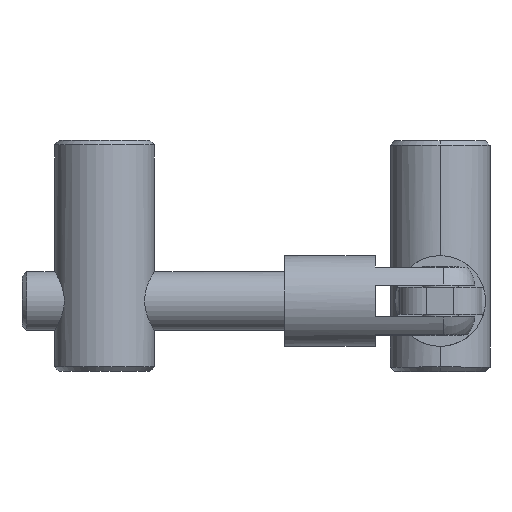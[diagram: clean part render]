
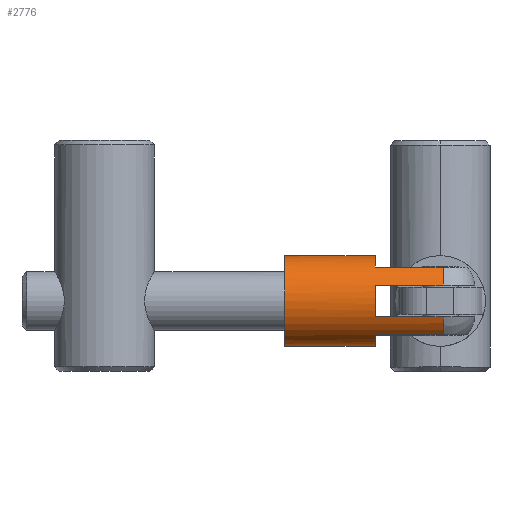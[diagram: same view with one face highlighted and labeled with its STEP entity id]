
A CAD part, top view. The second image highlights one B-rep face of the part: STEP entity #2776.
In plain terms, the highlighted cylindrical face has radius 5 mm (diameter 10 mm), a partial arc.
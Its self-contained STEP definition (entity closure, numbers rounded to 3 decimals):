
#13 = EDGE_CURVE ( 'NONE', #1113, #1048, #3771, .T. ) ;
#226 = CARTESIAN_POINT ( 'NONE',  ( -10.274, -2.469, 39. ) ) ;
#243 = CARTESIAN_POINT ( 'NONE',  ( -6.538, -5.792, 50. ) ) ;
#298 = VECTOR ( 'NONE', #2932, 1000. ) ;
#367 = CARTESIAN_POINT ( 'NONE',  ( -15.274, -2.469, 39. ) ) ;
#370 = CARTESIAN_POINT ( 'NONE',  ( -8.538, -7.158, 46.5 ) ) ;
#371 = VERTEX_POINT ( 'NONE', #2464 ) ;
#456 = CARTESIAN_POINT ( 'NONE',  ( -10.274, -2.469, 39. ) ) ;
#544 = LINE ( 'NONE', #3276, #3618 ) ;
#594 = CYLINDRICAL_SURFACE ( 'NONE', #2261, 5. ) ;
#636 = CARTESIAN_POINT ( 'NONE',  ( -14.038, -5.761, 39. ) ) ;
#639 = DIRECTION ( 'NONE',  ( 0., 0., 1. ) ) ;
#640 = EDGE_CURVE ( 'NONE', #2269, #1048, #1494, .T. ) ;
#655 = EDGE_LOOP ( 'NONE', ( #2705, #1090, #2313, #2256, #1171, #1684, #2192, #3718, #3073, #1452, #3849, #841 ) ) ;
#692 = VERTEX_POINT ( 'NONE', #3238 ) ;
#710 = CIRCLE ( 'NONE', #1411, 5. ) ;
#761 = CARTESIAN_POINT ( 'NONE',  ( -12.038, -7.148, 39. ) ) ;
#769 = CARTESIAN_POINT ( 'NONE',  ( -8.538, -7.158, 50. ) ) ;
#776 = EDGE_CURVE ( 'NONE', #3315, #2993, #1115, .T. ) ;
#782 = VECTOR ( 'NONE', #2841, 1000. ) ;
#819 = CIRCLE ( 'NONE', #2415, 5. ) ;
#832 = DIRECTION ( 'NONE',  ( 0., 0., -1. ) ) ;
#841 = ORIENTED_EDGE ( 'NONE', *, *, #1998, .T. ) ;
#877 = CARTESIAN_POINT ( 'NONE',  ( -15.274, -2.469, 39. ) ) ;
#887 = EDGE_CURVE ( 'NONE', #1274, #3315, #3283, .T. ) ;
#928 = CARTESIAN_POINT ( 'NONE',  ( -10.274, -2.469, 39. ) ) ;
#963 = EDGE_CURVE ( 'NONE', #2150, #2993, #819, .T. ) ;
#1020 = AXIS2_PLACEMENT_3D ( 'NONE', #2440, #639, #2728 ) ;
#1022 = DIRECTION ( 'NONE',  ( 0., 0., -1. ) ) ;
#1048 = VERTEX_POINT ( 'NONE', #2167 ) ;
#1065 = EDGE_CURVE ( 'NONE', #2150, #371, #3104, .T. ) ;
#1090 = ORIENTED_EDGE ( 'NONE', *, *, #3571, .F. ) ;
#1113 = VERTEX_POINT ( 'NONE', #761 ) ;
#1115 = LINE ( 'NONE', #2639, #298 ) ;
#1133 = CARTESIAN_POINT ( 'NONE',  ( -5.274, -2.469, 39. ) ) ;
#1169 = DIRECTION ( 'NONE',  ( 0., 0., -1. ) ) ;
#1171 = ORIENTED_EDGE ( 'NONE', *, *, #640, .T. ) ;
#1235 = DIRECTION ( 'NONE',  ( 1., 0., 0. ) ) ;
#1274 = VERTEX_POINT ( 'NONE', #3188 ) ;
#1299 = DIRECTION ( 'NONE',  ( 0., 0., -1. ) ) ;
#1339 = EDGE_CURVE ( 'NONE', #1541, #692, #1484, .T. ) ;
#1411 = AXIS2_PLACEMENT_3D ( 'NONE', #3287, #1530, #3578 ) ;
#1452 = ORIENTED_EDGE ( 'NONE', *, *, #963, .F. ) ;
#1484 = LINE ( 'NONE', #243, #3049 ) ;
#1494 = LINE ( 'NONE', #769, #782 ) ;
#1518 = DIRECTION ( 'NONE',  ( 0., 0., -1. ) ) ;
#1530 = DIRECTION ( 'NONE',  ( 0., 0., 1. ) ) ;
#1541 = VERTEX_POINT ( 'NONE', #3765 ) ;
#1684 = ORIENTED_EDGE ( 'NONE', *, *, #13, .F. ) ;
#1712 = CARTESIAN_POINT ( 'NONE',  ( -5.274, -2.469, 29. ) ) ;
#1735 = DIRECTION ( 'NONE',  ( 0., 0., -1. ) ) ;
#1809 = DIRECTION ( 'NONE',  ( 0., 0., -1. ) ) ;
#1823 = AXIS2_PLACEMENT_3D ( 'NONE', #3562, #1809, #2106 ) ;
#1960 = DIRECTION ( 'NONE',  ( 0., 0., 1. ) ) ;
#1998 = EDGE_CURVE ( 'NONE', #371, #3860, #3677, .T. ) ;
#2025 = DIRECTION ( 'NONE',  ( -1., 0., 0. ) ) ;
#2032 = VERTEX_POINT ( 'NONE', #3326 ) ;
#2106 = DIRECTION ( 'NONE',  ( -1., 0., 0. ) ) ;
#2150 = VERTEX_POINT ( 'NONE', #877 ) ;
#2167 = CARTESIAN_POINT ( 'NONE',  ( -8.538, -7.158, 39. ) ) ;
#2192 = ORIENTED_EDGE ( 'NONE', *, *, #2454, .F. ) ;
#2256 = ORIENTED_EDGE ( 'NONE', *, *, #3113, .T. ) ;
#2261 = AXIS2_PLACEMENT_3D ( 'NONE', #226, #832, #2025 ) ;
#2269 = VERTEX_POINT ( 'NONE', #370 ) ;
#2281 = FACE_OUTER_BOUND ( 'NONE', #655, .T. ) ;
#2313 = ORIENTED_EDGE ( 'NONE', *, *, #1339, .F. ) ;
#2385 = VECTOR ( 'NONE', #1169, 1000. ) ;
#2415 = AXIS2_PLACEMENT_3D ( 'NONE', #928, #2994, #1235 ) ;
#2440 = CARTESIAN_POINT ( 'NONE',  ( -10.274, -2.469, 29. ) ) ;
#2454 = EDGE_CURVE ( 'NONE', #1274, #1113, #544, .T. ) ;
#2464 = CARTESIAN_POINT ( 'NONE',  ( -15.274, -2.469, 29. ) ) ;
#2486 = AXIS2_PLACEMENT_3D ( 'NONE', #456, #1960, #3133 ) ;
#2546 = CARTESIAN_POINT ( 'NONE',  ( -14.038, -5.761, 46.5 ) ) ;
#2639 = CARTESIAN_POINT ( 'NONE',  ( -14.038, -5.761, 50. ) ) ;
#2705 = ORIENTED_EDGE ( 'NONE', *, *, #3481, .F. ) ;
#2728 = DIRECTION ( 'NONE',  ( 1., 0., 0. ) ) ;
#2776 = ADVANCED_FACE ( 'NONE', ( #2281 ), #594, .T. ) ;
#2793 = CARTESIAN_POINT ( 'NONE',  ( -10.274, -2.469, 46.5 ) ) ;
#2825 = VECTOR ( 'NONE', #1299, 1000. ) ;
#2841 = DIRECTION ( 'NONE',  ( 0., 0., -1. ) ) ;
#2932 = DIRECTION ( 'NONE',  ( 0., 0., -1. ) ) ;
#2993 = VERTEX_POINT ( 'NONE', #636 ) ;
#2994 = DIRECTION ( 'NONE',  ( 0., 0., 1. ) ) ;
#3019 = CIRCLE ( 'NONE', #3280, 5. ) ;
#3049 = VECTOR ( 'NONE', #1735, 1000. ) ;
#3073 = ORIENTED_EDGE ( 'NONE', *, *, #776, .T. ) ;
#3086 = DIRECTION ( 'NONE',  ( -1., 0., 0. ) ) ;
#3104 = LINE ( 'NONE', #367, #2825 ) ;
#3113 = EDGE_CURVE ( 'NONE', #1541, #2269, #3019, .T. ) ;
#3133 = DIRECTION ( 'NONE',  ( 1., 0., 0. ) ) ;
#3164 = LINE ( 'NONE', #1133, #2385 ) ;
#3188 = CARTESIAN_POINT ( 'NONE',  ( -12.038, -7.148, 46.5 ) ) ;
#3238 = CARTESIAN_POINT ( 'NONE',  ( -6.538, -5.792, 39. ) ) ;
#3276 = CARTESIAN_POINT ( 'NONE',  ( -12.038, -7.148, 50. ) ) ;
#3280 = AXIS2_PLACEMENT_3D ( 'NONE', #2793, #1022, #3086 ) ;
#3283 = CIRCLE ( 'NONE', #1823, 5. ) ;
#3287 = CARTESIAN_POINT ( 'NONE',  ( -10.274, -2.469, 39. ) ) ;
#3315 = VERTEX_POINT ( 'NONE', #2546 ) ;
#3326 = CARTESIAN_POINT ( 'NONE',  ( -5.274, -2.469, 39. ) ) ;
#3481 = EDGE_CURVE ( 'NONE', #2032, #3860, #3164, .T. ) ;
#3562 = CARTESIAN_POINT ( 'NONE',  ( -10.274, -2.469, 46.5 ) ) ;
#3571 = EDGE_CURVE ( 'NONE', #692, #2032, #710, .T. ) ;
#3578 = DIRECTION ( 'NONE',  ( 1., 0., 0. ) ) ;
#3618 = VECTOR ( 'NONE', #1518, 1000. ) ;
#3677 = CIRCLE ( 'NONE', #1020, 5. ) ;
#3718 = ORIENTED_EDGE ( 'NONE', *, *, #887, .T. ) ;
#3765 = CARTESIAN_POINT ( 'NONE',  ( -6.538, -5.792, 46.5 ) ) ;
#3771 = CIRCLE ( 'NONE', #2486, 5. ) ;
#3849 = ORIENTED_EDGE ( 'NONE', *, *, #1065, .T. ) ;
#3860 = VERTEX_POINT ( 'NONE', #1712 ) ;
